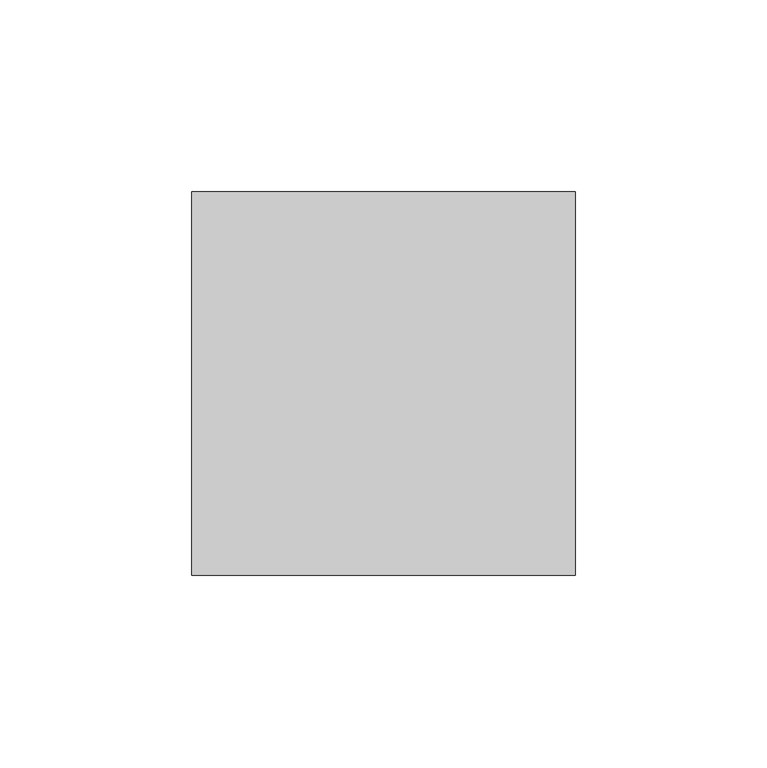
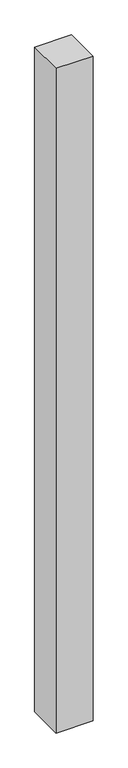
"""IFC4 building model written with IfcOpenShell, lengths in millimetres: member geometry, Montante angular cuadrilátero : Montante cuadrilátero 1."""

import ifcopenshell
import ifcopenshell.guid

model = None  # the IFC model being written
_history = None  # IfcOwnerHistory: only IFC2X3 demands one
_inside = {}  # id of a spatial element -> (the spatial element, [elements in it])
_under = {}  # id of a project, library or spatial element -> (it, [spatial elements below it])
_declared = {}  # id of a project -> (the project, [libraries it declares])
_typed = {}  # id of a type object -> (the type object, [elements of that type])
_made_of = {}  # id of a material, layer set ... -> (it, [elements and type objects made of it])


def new_model(schema):
    """Start an empty IFC model of exactly this schema.

    Asked for "IFC4X3", IfcOpenShell would pick the latest addendum, in which some entities
    have other attributes; the version numbers below select the first issue.
    IFC2X3 requires an IfcOwnerHistory on every rooted entity: one is made here for all.
    """
    global model, _history
    if schema == "IFC4X3":
        model = ifcopenshell.file(schema_version=(4, 3, 0, 0))
    else:
        model = ifcopenshell.file(schema=schema)
    _inside.clear()
    _under.clear()
    _declared.clear()
    _typed.clear()
    _made_of.clear()
    _history = None
    if model.schema == "IFC2X3":
        org = make("IfcOrganization", Name="unknown")
        user = make(
            "IfcPersonAndOrganization",
            ThePerson=make("IfcPerson", FamilyName="unknown"),
            TheOrganization=org,
        )
        app = make(
            "IfcApplication",
            ApplicationDeveloper=org,
            Version="unknown",
            ApplicationFullName="unknown",
            ApplicationIdentifier="unknown",
        )
        _history = make(
            "IfcOwnerHistory",
            OwningUser=user,
            OwningApplication=app,
            ChangeAction="ADDED",
            CreationDate=0,
        )
    return model


def make(cls, **values):
    """One entity of the class cls with the attributes given. An attribute that is None is left unset."""
    return model.create_entity(
        cls, **{name: value for name, value in values.items() if value is not None}
    )


def rooted(cls, **values):
    """An entity with a GlobalId (a new one), such as an element, a storey or a relation."""
    return make(cls, GlobalId=ifcopenshell.guid.new(), OwnerHistory=_history, **values)


def si_unit(unit_type, name, prefix=None):
    """IfcSIUnit, for example si_unit("LENGTHUNIT", "METRE", prefix="MILLI")."""
    return make("IfcSIUnit", UnitType=unit_type, Prefix=prefix, Name=name)


def assignment(units):
    """IfcUnitAssignment: the units of a project."""
    return None if units is None else make("IfcUnitAssignment", Units=units)


def point(xyz):
    """IfcCartesianPoint."""
    return None if xyz is None else make("IfcCartesianPoint", Coordinates=xyz)


def direction(xyz):
    """IfcDirection."""
    return None if xyz is None else make("IfcDirection", DirectionRatios=xyz)


def frame(location, z_axis=None, x_axis=None):
    """IfcAxis2Placement3D, a coordinate frame: its origin and axes. An axis left out is left unset."""
    return make(
        "IfcAxis2Placement3D",
        Location=point(location),
        Axis=direction(z_axis),
        RefDirection=direction(x_axis),
    )


def origin():
    """The frame at (0, 0, 0) with its axes left unset."""
    return frame((0.0, 0.0, 0.0))


def place(relative_to, where):
    """IfcLocalPlacement: puts the frame where relative to a parent placement (None: the world)."""
    return make(
        "IfcLocalPlacement", PlacementRelTo=relative_to, RelativePlacement=where
    )


def context(
    kind, dimensions, precision=None, world=None, true_north=None, identifier=None
):
    """IfcGeometricRepresentationContext, for example the 3D "Model" context."""
    return make(
        "IfcGeometricRepresentationContext",
        ContextIdentifier=identifier,
        ContextType=kind,
        CoordinateSpaceDimension=dimensions,
        Precision=precision,
        WorldCoordinateSystem=world,
        TrueNorth=true_north,
    )


def project(units=None, contexts=None):
    """IfcProject with its units and contexts."""
    return rooted(
        "IfcProject",
        Name="project",
        RepresentationContexts=contexts,
        UnitsInContext=assignment(units),
    )


def spatial(cls, under=None, at=None, **own):
    """A site, building, storey or space (cls), placed at a placement, below another one or the project."""
    s = rooted(cls, ObjectPlacement=at, **own)
    if under is not None:
        _under.setdefault(under.id(), (under, []))[1].append(s)
    return s


def polyline(points):
    """IfcPolyline through the points."""
    return make("IfcPolyline", Points=[point(p) for p in points])


def outline(outer, holes=None, kind="AREA"):
    """IfcArbitraryClosedProfileDef: a profile drawn as a closed curve; with holes, ...WithVoids."""
    if holes is None:
        return make("IfcArbitraryClosedProfileDef", ProfileType=kind, OuterCurve=outer)
    return make(
        "IfcArbitraryProfileDefWithVoids",
        ProfileType=kind,
        OuterCurve=outer,
        InnerCurves=holes,
    )


def extrude(swept, where, along, depth):
    """IfcExtrudedAreaSolid: the profile swept, set in the frame where, extruded along a direction by depth."""
    return make(
        "IfcExtrudedAreaSolid",
        SweptArea=swept,
        Position=where,
        ExtrudedDirection=direction(along),
        Depth=depth,
    )


def shape(context_of_items, identifier, shape_type, items):
    """IfcShapeRepresentation: the items that make up one representation, for example the "Body"."""
    return make(
        "IfcShapeRepresentation",
        ContextOfItems=context_of_items,
        RepresentationIdentifier=identifier,
        RepresentationType=shape_type,
        Items=items,
    )


def source(mapping_origin, context_of_items, identifier, shape_type, items):
    """IfcRepresentationMap: a shape defined once, which mapped items show again and again."""
    return make(
        "IfcRepresentationMap",
        MappingOrigin=mapping_origin,
        MappedRepresentation=shape(context_of_items, identifier, shape_type, items),
    )


def transform(
    local_origin,
    x_axis=None,
    y_axis=None,
    z_axis=None,
    scale=None,
    scale2=None,
    scale3=None,
    uniform=True,
):
    """IfcCartesianTransformationOperator3D, or its non-uniform kind. x_axis, y_axis, z_axis: its Axis1, 2, 3."""
    if uniform:
        return make(
            "IfcCartesianTransformationOperator3D",
            Axis1=direction(x_axis),
            Axis2=direction(y_axis),
            LocalOrigin=point(local_origin),
            Scale=scale,
            Axis3=direction(z_axis),
        )
    return make(
        "IfcCartesianTransformationOperator3DnonUniform",
        Axis1=direction(x_axis),
        Axis2=direction(y_axis),
        LocalOrigin=point(local_origin),
        Scale=scale,
        Axis3=direction(z_axis),
        Scale2=scale2,
        Scale3=scale3,
    )


def mapped(mapping_source, mapping_target):
    """IfcMappedItem: shows the shape of a source again, moved by a transform."""
    return make(
        "IfcMappedItem", MappingSource=mapping_source, MappingTarget=mapping_target
    )


def made_of(thing, what):
    """Note that an element or type object is made of a material, layer set ...; save() writes the relation."""
    if what is not None:
        _made_of.setdefault(what.id(), (what, []))[1].append(thing)
    return thing


def element(
    cls,
    number,
    at=None,
    inside=None,
    cuts=None,
    type_object=None,
    material=None,
    context=None,
    identifier="Body",
    shape_type=None,
    held_by="IfcProductDefinitionShape",
    body=None,
    shapes=None,
    **own,
):
    """One element of the class cls, such as IfcWall. Its Tag is "e" and its number.

    at: its placement. inside: the storey or other place that contains it. cuts: it is an
    opening in that element (IfcRelVoidsElement). A single representation is given by context,
    identifier, shape_type and body (its items); several are given by shapes. held_by: the class
    of the entity that holds the representations. save() writes the other relations.
    """
    e = rooted(cls, Tag="e%d" % number, ObjectPlacement=at, **own)
    if body is not None:
        shapes = [shape(context, identifier, shape_type, body)]
    if shapes is not None:
        e.Representation = make(held_by, Representations=shapes)
    if inside is not None:
        _inside.setdefault(inside.id(), (inside, []))[1].append(e)
    if cuts is not None:
        rooted(
            "IfcRelVoidsElement", RelatingBuildingElement=cuts, RelatedOpeningElement=e
        )
    if type_object is not None:
        _typed.setdefault(type_object.id(), (type_object, []))[1].append(e)
    return made_of(e, material)


def aggregate(whole, parts):
    """IfcRelAggregates: a whole, such as a stair, and the parts it consists of."""
    return rooted("IfcRelAggregates", RelatingObject=whole, RelatedObjects=parts)


def save(model, path):
    """Write the relations noted so far, then the file.

    IfcRelAggregates (storeys below a building ...), IfcRelContainedInSpatialStructure (elements
    in a storey), IfcRelDefinesByType, IfcRelAssociatesMaterial and IfcRelDeclares: one each for
    every whole, place, type object, material and project.
    """
    for whole, parts in _under.values():
        aggregate(whole, parts)
    for where, things in _inside.values():
        rooted(
            "IfcRelContainedInSpatialStructure",
            RelatedElements=things,
            RelatingStructure=where,
        )
    for kind, things in _typed.values():
        rooted("IfcRelDefinesByType", RelatedObjects=things, RelatingType=kind)
    for what, things in _made_of.values():
        rooted("IfcRelAssociatesMaterial", RelatedObjects=things, RelatingMaterial=what)
    for by, libraries in _declared.values():
        rooted("IfcRelDeclares", RelatingContext=by, RelatedDefinitions=libraries)
    model.write(path)


def member_4f461d74(model_context):
    return source(origin(), model_context, "Body", "SweptSolid", [
        extrude(outline(polyline([(50.0, -50.0), (-50.0, -50.0), (-50.0, 50.0), (50.0, 50.0), (50.0, -50.0)])), frame((0.0, 0.0, -1900.0), z_axis=(0.0, 0.0, 1.0), x_axis=(1.0, 0.0, 0.0)), (0.0, 0.0, 1.0), 1900.0),
    ])


if __name__ == "__main__":
    model = new_model("IFC4")
    model_context = context("Model", 3, world=origin())
    ifc_project = project(units=[si_unit("LENGTHUNIT", "METRE", prefix="MILLI")], contexts=[model_context])
    site = spatial("IfcSite", under=ifc_project)
    building = spatial("IfcBuilding", under=site)
    placement = place(None, origin())
    member_shape = member_4f461d74(model_context)
    element("IfcMember", 1, ObjectType="Montante angular cuadrilátero : Montante cuadrilátero 1", at=placement, inside=building, context=model_context, shape_type="MappedRepresentation", body=[
        mapped(member_shape, transform((0.0, 0.0, 0.0), x_axis=(1.0, 0.0, 0.0), y_axis=(0.0, 1.0, 0.0), z_axis=(0.0, 0.0, 1.0))),
    ])
    save(model, "model.ifc")
